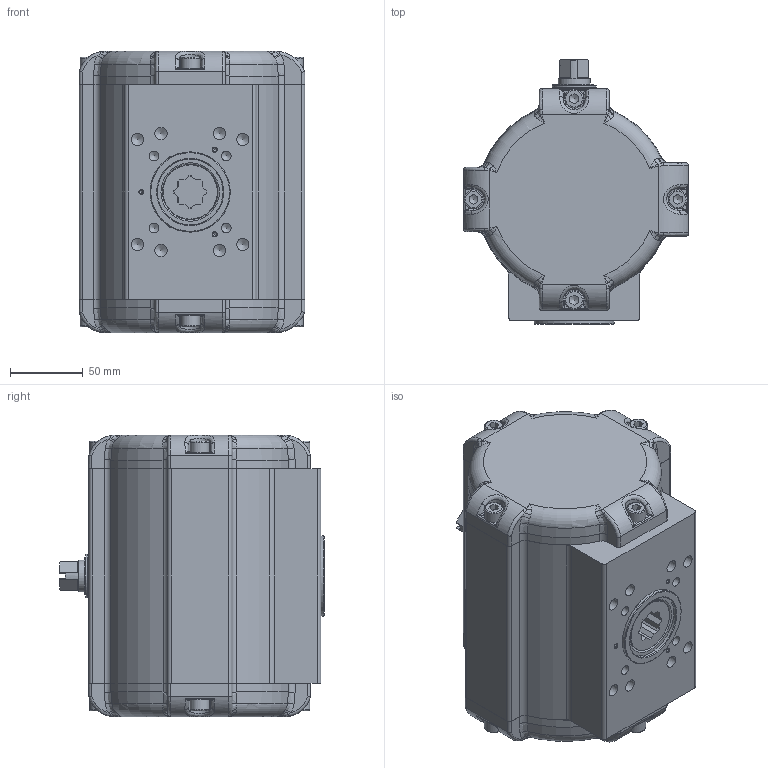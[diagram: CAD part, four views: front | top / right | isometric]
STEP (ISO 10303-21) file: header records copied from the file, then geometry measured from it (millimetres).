
FILE_DESCRIPTION((''),'2;1');
FILE_NAME('Z:\DOKUMENTATION ANTRIEBSPROGRAMM\Antriebe (neu)\BR16_SAD_SAF_90°\STEP-Dateien\25\SAD_25_BR16.stp','2017-06-27T08:21:05',('vmi'),(''),'Autodesk Inventor 2013','Autodesk Inventor 2013','');
FILE_SCHEMA(('AUTOMOTIVE_DESIGN { 1 0 10303 214 1 1 1 1 }'));
Length unit declared in the file: millimetre
Products named in the file (1): ENG-084097_Shrinkwrap_1
Bounding box: 154.5 x 181.5 x 193 mm (x, y, z)
Surface area: 189929.3 mm2 (no closed solid volume)
Topology: 0 solids, 24 shells, 575 faces, 1629 edges, 1043 vertices
Faces by surface type: plane 172, cylinder 146, bspline 145, torus 57, cone 55
Full cylindrical faces by diameter (mm): 2 x2, 2.5 x3, 4.134 x8, 4.917 x1, 5 x1, 6.647 x4, 8.376 x8, 11.445 x2, 13 x8, 20 x1, 20.7 x1, 21.8 x1, 30 x3, 38 x1, 45 x1, 55 x1, 119 x1
Entity records: 22321 total; most frequent: CARTESIAN_POINT 8420, ORIENTED_EDGE 2673, DIRECTION 2476, EDGE_CURVE 1467, VERTEX_POINT 1000, AXIS2_PLACEMENT_3D 988, EDGE_LOOP 728, FACE_OUTER_BOUND 575
